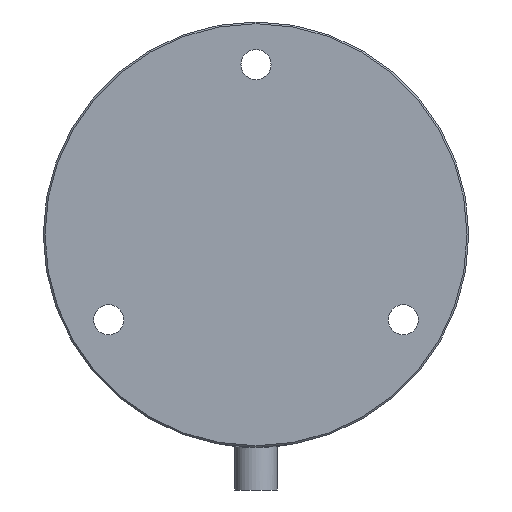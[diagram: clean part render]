
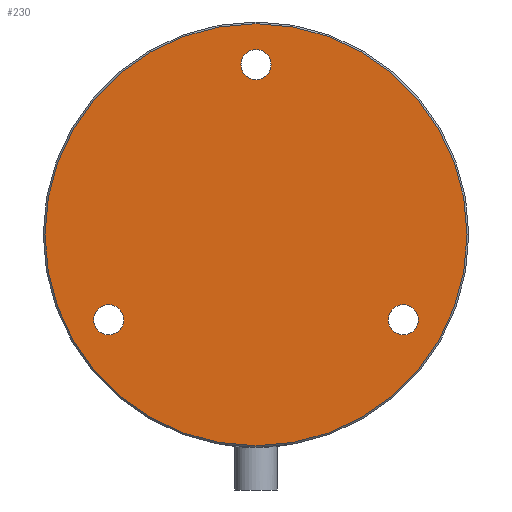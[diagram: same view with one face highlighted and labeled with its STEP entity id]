
A CAD part, front view. The second image highlights one B-rep face of the part: STEP entity #230.
In plain terms, the highlighted planar face has unit normal (0, -1, 0).
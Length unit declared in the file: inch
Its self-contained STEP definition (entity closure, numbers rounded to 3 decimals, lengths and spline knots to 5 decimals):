
#24 = DIRECTION ( 'NONE',  ( 0., 0., 1. ) ) ;
#90 = ORIENTED_EDGE ( 'NONE', *, *, #724, .T. ) ;
#98 = ORIENTED_EDGE ( 'NONE', *, *, #737, .T. ) ;
#122 = ORIENTED_EDGE ( 'NONE', *, *, #735, .T. ) ;
#129 = EDGE_LOOP ( 'NONE', ( #172, #157 ) ) ;
#132 = EDGE_LOOP ( 'NONE', ( #90, #176 ) ) ;
#157 = ORIENTED_EDGE ( 'NONE', *, *, #748, .T. ) ;
#161 = ORIENTED_EDGE ( 'NONE', *, *, #791, .T. ) ;
#169 = ORIENTED_EDGE ( 'NONE', *, *, #730, .T. ) ;
#172 = ORIENTED_EDGE ( 'NONE', *, *, #723, .T. ) ;
#176 = ORIENTED_EDGE ( 'NONE', *, *, #741, .T. ) ;
#196 = EDGE_LOOP ( 'NONE', ( #161, #169 ) ) ;
#212 = EDGE_LOOP ( 'NONE', ( #122, #98 ) ) ;
#214 = FACE_BOUND ( 'NONE', #132, .T. ) ;
#215 = FACE_BOUND ( 'NONE', #129, .T. ) ;
#218 = FACE_BOUND ( 'NONE', #196, .T. ) ;
#224 = FACE_OUTER_BOUND ( 'NONE', #212, .T. ) ;
#230 = ADVANCED_FACE ( 'NONE', ( #224, #214, #215, #218 ), #566, .F. ) ;
#254 = DIRECTION ( 'NONE',  ( 0., 1., 0. ) ) ;
#255 = DIRECTION ( 'NONE',  ( 0., 0., 1. ) ) ;
#268 = CARTESIAN_POINT ( 'NONE',  ( 0., -0.8, 1. ) ) ;
#276 = CARTESIAN_POINT ( 'NONE',  ( 0., -0.8, 0. ) ) ;
#277 = DIRECTION ( 'NONE',  ( 0., 0., 1. ) ) ;
#284 = DIRECTION ( 'NONE',  ( 0., -1., 0. ) ) ;
#292 = DIRECTION ( 'NONE',  ( 0., 0., 1. ) ) ;
#302 = DIRECTION ( 'NONE',  ( 0., 0., 1. ) ) ;
#304 = CARTESIAN_POINT ( 'NONE',  ( 0., -0.8, 0. ) ) ;
#307 = DIRECTION ( 'NONE',  ( 0., 1., 0. ) ) ;
#308 = CARTESIAN_POINT ( 'NONE',  ( -0.86603, -0.8, -0.5 ) ) ;
#309 = DIRECTION ( 'NONE',  ( 0., -1., 0. ) ) ;
#332 = CARTESIAN_POINT ( 'NONE',  ( 0.86603, -0.8, -0.5 ) ) ;
#335 = DIRECTION ( 'NONE',  ( 0., 1., 0. ) ) ;
#409 = CARTESIAN_POINT ( 'NONE',  ( 0., -0.8, -1.24 ) ) ;
#415 = CARTESIAN_POINT ( 'NONE',  ( 0., -0.8, 1.0885 ) ) ;
#418 = CARTESIAN_POINT ( 'NONE',  ( 0., -0.8, 1.24 ) ) ;
#430 = CARTESIAN_POINT ( 'NONE',  ( -0.86603, -0.8, -0.5885 ) ) ;
#431 = CARTESIAN_POINT ( 'NONE',  ( 0.86603, -0.8, -0.5885 ) ) ;
#448 = CARTESIAN_POINT ( 'NONE',  ( 0., -0.8, 0.9115 ) ) ;
#460 = CARTESIAN_POINT ( 'NONE',  ( -0.86603, -0.8, -0.4115 ) ) ;
#471 = CARTESIAN_POINT ( 'NONE',  ( 0.86603, -0.8, -0.4115 ) ) ;
#481 = CARTESIAN_POINT ( 'NONE',  ( -0.86603, -0.8, -0.5 ) ) ;
#483 = DIRECTION ( 'NONE',  ( 0., 1., 0. ) ) ;
#485 = CARTESIAN_POINT ( 'NONE',  ( 0.86603, -0.8, -0.5 ) ) ;
#498 = DIRECTION ( 'NONE',  ( 0., 0., 1. ) ) ;
#499 = DIRECTION ( 'NONE',  ( 0., 0., 1. ) ) ;
#502 = DIRECTION ( 'NONE',  ( 0., 1., 0. ) ) ;
#518 = VERTEX_POINT ( 'NONE', #409 ) ;
#519 = VERTEX_POINT ( 'NONE', #418 ) ;
#530 = VERTEX_POINT ( 'NONE', #415 ) ;
#537 = VERTEX_POINT ( 'NONE', #430 ) ;
#538 = VERTEX_POINT ( 'NONE', #431 ) ;
#548 = VERTEX_POINT ( 'NONE', #448 ) ;
#549 = VERTEX_POINT ( 'NONE', #471 ) ;
#551 = VERTEX_POINT ( 'NONE', #460 ) ;
#552 = CARTESIAN_POINT ( 'NONE',  ( -2.75557, -0.8, 0. ) ) ;
#560 = DIRECTION ( 'NONE',  ( 0., 1., 0. ) ) ;
#566 = PLANE ( 'NONE',  #803 ) ;
#567 = DIRECTION ( 'NONE',  ( 0., 0., 1. ) ) ;
#648 = CIRCLE ( 'NONE', #765, 1.24 ) ;
#656 = CIRCLE ( 'NONE', #822, 1.24 ) ;
#658 = CIRCLE ( 'NONE', #814, 0.0885 ) ;
#659 = CIRCLE ( 'NONE', #821, 0.0885 ) ;
#663 = CIRCLE ( 'NONE', #759, 0.0885 ) ;
#674 = CIRCLE ( 'NONE', #819, 0.0885 ) ;
#680 = CIRCLE ( 'NONE', #768, 0.0885 ) ;
#686 = CIRCLE ( 'NONE', #824, 0.0885 ) ;
#723 = EDGE_CURVE ( 'NONE', #549, #538, #674, .T. ) ;
#724 = EDGE_CURVE ( 'NONE', #551, #537, #658, .T. ) ;
#730 = EDGE_CURVE ( 'NONE', #548, #530, #659, .T. ) ;
#735 = EDGE_CURVE ( 'NONE', #519, #518, #656, .T. ) ;
#737 = EDGE_CURVE ( 'NONE', #518, #519, #648, .T. ) ;
#741 = EDGE_CURVE ( 'NONE', #537, #551, #663, .T. ) ;
#748 = EDGE_CURVE ( 'NONE', #538, #549, #680, .T. ) ;
#759 = AXIS2_PLACEMENT_3D ( 'NONE', #308, #307, #277 ) ;
#765 = AXIS2_PLACEMENT_3D ( 'NONE', #304, #309, #292 ) ;
#768 = AXIS2_PLACEMENT_3D ( 'NONE', #332, #335, #24 ) ;
#791 = EDGE_CURVE ( 'NONE', #530, #548, #686, .T. ) ;
#803 = AXIS2_PLACEMENT_3D ( 'NONE', #552, #560, #567 ) ;
#814 = AXIS2_PLACEMENT_3D ( 'NONE', #481, #483, #499 ) ;
#819 = AXIS2_PLACEMENT_3D ( 'NONE', #485, #502, #498 ) ;
#821 = AXIS2_PLACEMENT_3D ( 'NONE', #268, #254, #255 ) ;
#822 = AXIS2_PLACEMENT_3D ( 'NONE', #276, #284, #302 ) ;
#824 = AXIS2_PLACEMENT_3D ( 'NONE', #854, #858, #846 ) ;
#846 = DIRECTION ( 'NONE',  ( 0., 0., 1. ) ) ;
#854 = CARTESIAN_POINT ( 'NONE',  ( 0., -0.8, 1. ) ) ;
#858 = DIRECTION ( 'NONE',  ( 0., 1., 0. ) ) ;
